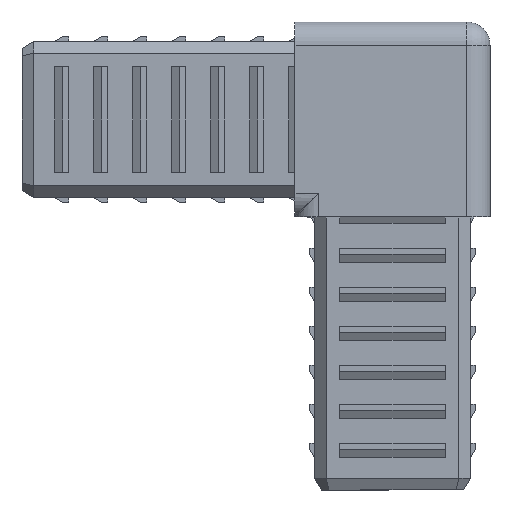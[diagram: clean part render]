
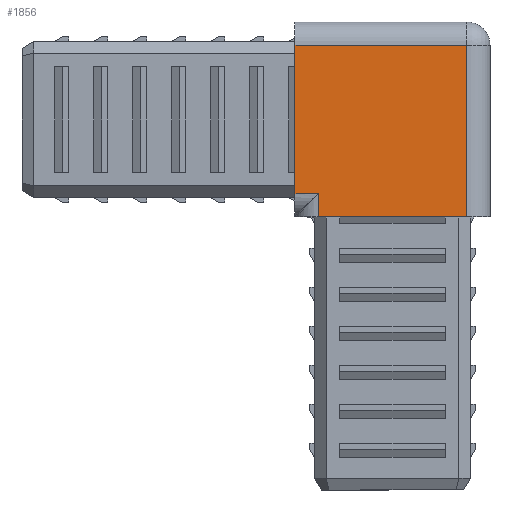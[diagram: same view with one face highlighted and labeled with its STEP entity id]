
A CAD part, left-side view. The second image highlights one B-rep face of the part: STEP entity #1856.
In plain terms, the highlighted planar face has unit normal (-1, 0, 0).
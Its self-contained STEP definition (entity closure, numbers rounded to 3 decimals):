
#139 = DIRECTION ( 'NONE',  ( 0., -1., 0. ) ) ;
#478 = LINE ( 'NONE', #8146, #5887 ) ;
#497 = ORIENTED_EDGE ( 'NONE', *, *, #4494, .T. ) ;
#576 = CARTESIAN_POINT ( 'NONE',  ( -12.5, 9.5, -12.5 ) ) ;
#783 = CARTESIAN_POINT ( 'NONE',  ( -12.5, -9.5, -12.5 ) ) ;
#1856 = ADVANCED_FACE ( 'NONE', ( #3687 ), #4562, .F. ) ;
#2239 = LINE ( 'NONE', #8294, #7020 ) ;
#2259 = VERTEX_POINT ( 'NONE', #6828 ) ;
#2420 = CARTESIAN_POINT ( 'NONE',  ( -12.5, 12.5, 12.5 ) ) ;
#2595 = VERTEX_POINT ( 'NONE', #4839 ) ;
#2671 = DIRECTION ( 'NONE',  ( 0., 1., 0. ) ) ;
#2918 = ORIENTED_EDGE ( 'NONE', *, *, #5103, .T. ) ;
#2941 = VERTEX_POINT ( 'NONE', #576 ) ;
#3320 = LINE ( 'NONE', #7372, #6463 ) ;
#3687 = FACE_OUTER_BOUND ( 'NONE', #10176, .T. ) ;
#4195 = CARTESIAN_POINT ( 'NONE',  ( -12.5, -12.5, 9.5 ) ) ;
#4494 = EDGE_CURVE ( 'NONE', #8365, #8769, #2239, .T. ) ;
#4515 = VECTOR ( 'NONE', #6480, 1000. ) ;
#4562 = PLANE ( 'NONE',  #9885 ) ;
#4839 = CARTESIAN_POINT ( 'NONE',  ( -12.5, 12.5, 9.5 ) ) ;
#4920 = DIRECTION ( 'NONE',  ( 0., 1., 0. ) ) ;
#5103 = EDGE_CURVE ( 'NONE', #8769, #2595, #8461, .T. ) ;
#5178 = VECTOR ( 'NONE', #4920, 1000. ) ;
#5395 = CARTESIAN_POINT ( 'NONE',  ( -12.5, -12.5, 12.5 ) ) ;
#5868 = EDGE_CURVE ( 'NONE', #2259, #6496, #7231, .T. ) ;
#5887 = VECTOR ( 'NONE', #139, 1000. ) ;
#6115 = VECTOR ( 'NONE', #2671, 1000. ) ;
#6211 = DIRECTION ( 'NONE',  ( 1., 0., 0. ) ) ;
#6463 = VECTOR ( 'NONE', #8265, 1000. ) ;
#6480 = DIRECTION ( 'NONE',  ( 0., 0., -1. ) ) ;
#6496 = VERTEX_POINT ( 'NONE', #7447 ) ;
#6541 = EDGE_CURVE ( 'NONE', #2941, #2259, #3320, .T. ) ;
#6706 = DIRECTION ( 'NONE',  ( 0., 0., 1. ) ) ;
#6828 = CARTESIAN_POINT ( 'NONE',  ( -12.5, 9.5, -9.5 ) ) ;
#6887 = ORIENTED_EDGE ( 'NONE', *, *, #10221, .T. ) ;
#7020 = VECTOR ( 'NONE', #6706, 1000. ) ;
#7131 = ORIENTED_EDGE ( 'NONE', *, *, #5868, .F. ) ;
#7231 = LINE ( 'NONE', #9959, #6115 ) ;
#7372 = CARTESIAN_POINT ( 'NONE',  ( -12.5, 9.5, -9.5 ) ) ;
#7447 = CARTESIAN_POINT ( 'NONE',  ( -12.5, 12.5, -9.5 ) ) ;
#7654 = LINE ( 'NONE', #2420, #4515 ) ;
#8146 = CARTESIAN_POINT ( 'NONE',  ( -12.5, -12.5, -12.5 ) ) ;
#8265 = DIRECTION ( 'NONE',  ( 0., 0., 1. ) ) ;
#8294 = CARTESIAN_POINT ( 'NONE',  ( -12.5, -9.5, 12.5 ) ) ;
#8365 = VERTEX_POINT ( 'NONE', #783 ) ;
#8461 = LINE ( 'NONE', #4195, #5178 ) ;
#8462 = CARTESIAN_POINT ( 'NONE',  ( -12.5, -9.5, 9.5 ) ) ;
#8708 = ORIENTED_EDGE ( 'NONE', *, *, #9662, .T. ) ;
#8769 = VERTEX_POINT ( 'NONE', #8462 ) ;
#9168 = ORIENTED_EDGE ( 'NONE', *, *, #6541, .F. ) ;
#9429 = DIRECTION ( 'NONE',  ( 0., 0., -1. ) ) ;
#9662 = EDGE_CURVE ( 'NONE', #2595, #6496, #7654, .T. ) ;
#9885 = AXIS2_PLACEMENT_3D ( 'NONE', #5395, #6211, #9429 ) ;
#9959 = CARTESIAN_POINT ( 'NONE',  ( -12.5, 9.5, -9.5 ) ) ;
#10176 = EDGE_LOOP ( 'NONE', ( #8708, #7131, #9168, #6887, #497, #2918 ) ) ;
#10221 = EDGE_CURVE ( 'NONE', #2941, #8365, #478, .T. ) ;
